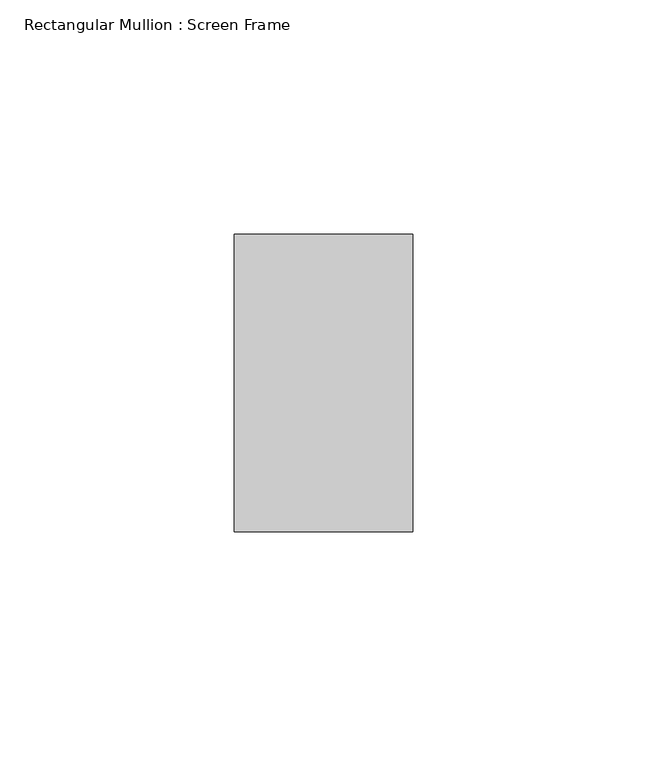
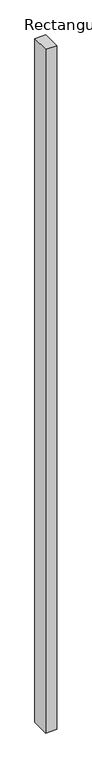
"""IFC4 building model written with IfcOpenShell, lengths in millimetres: member geometry, Rectangular Mullion : Screen Frame."""

import ifcopenshell
import ifcopenshell.guid

model = None  # the IFC model being written
_history = None  # IfcOwnerHistory: only IFC2X3 demands one
_inside = {}  # id of a spatial element -> (the spatial element, [elements in it])
_under = {}  # id of a project, library or spatial element -> (it, [spatial elements below it])
_declared = {}  # id of a project -> (the project, [libraries it declares])
_typed = {}  # id of a type object -> (the type object, [elements of that type])
_made_of = {}  # id of a material, layer set ... -> (it, [elements and type objects made of it])


def new_model(schema):
    """Start an empty IFC model of exactly this schema.

    Asked for "IFC4X3", IfcOpenShell would pick the latest addendum, in which some entities
    have other attributes; the version numbers below select the first issue.
    IFC2X3 requires an IfcOwnerHistory on every rooted entity: one is made here for all.
    """
    global model, _history
    if schema == "IFC4X3":
        model = ifcopenshell.file(schema_version=(4, 3, 0, 0))
    else:
        model = ifcopenshell.file(schema=schema)
    _inside.clear()
    _under.clear()
    _declared.clear()
    _typed.clear()
    _made_of.clear()
    _history = None
    if model.schema == "IFC2X3":
        org = make("IfcOrganization", Name="unknown")
        user = make(
            "IfcPersonAndOrganization",
            ThePerson=make("IfcPerson", FamilyName="unknown"),
            TheOrganization=org,
        )
        app = make(
            "IfcApplication",
            ApplicationDeveloper=org,
            Version="unknown",
            ApplicationFullName="unknown",
            ApplicationIdentifier="unknown",
        )
        _history = make(
            "IfcOwnerHistory",
            OwningUser=user,
            OwningApplication=app,
            ChangeAction="ADDED",
            CreationDate=0,
        )
    return model


def make(cls, **values):
    """One entity of the class cls with the attributes given. An attribute that is None is left unset."""
    return model.create_entity(
        cls, **{name: value for name, value in values.items() if value is not None}
    )


def rooted(cls, **values):
    """An entity with a GlobalId (a new one), such as an element, a storey or a relation."""
    return make(cls, GlobalId=ifcopenshell.guid.new(), OwnerHistory=_history, **values)


def si_unit(unit_type, name, prefix=None):
    """IfcSIUnit, for example si_unit("LENGTHUNIT", "METRE", prefix="MILLI")."""
    return make("IfcSIUnit", UnitType=unit_type, Prefix=prefix, Name=name)


def assignment(units):
    """IfcUnitAssignment: the units of a project."""
    return None if units is None else make("IfcUnitAssignment", Units=units)


def point(xyz):
    """IfcCartesianPoint."""
    return None if xyz is None else make("IfcCartesianPoint", Coordinates=xyz)


def direction(xyz):
    """IfcDirection."""
    return None if xyz is None else make("IfcDirection", DirectionRatios=xyz)


def frame(location, z_axis=None, x_axis=None):
    """IfcAxis2Placement3D, a coordinate frame: its origin and axes. An axis left out is left unset."""
    return make(
        "IfcAxis2Placement3D",
        Location=point(location),
        Axis=direction(z_axis),
        RefDirection=direction(x_axis),
    )


def origin():
    """The frame at (0, 0, 0) with its axes left unset."""
    return frame((0.0, 0.0, 0.0))


def place(relative_to, where):
    """IfcLocalPlacement: puts the frame where relative to a parent placement (None: the world)."""
    return make(
        "IfcLocalPlacement", PlacementRelTo=relative_to, RelativePlacement=where
    )


def context(
    kind, dimensions, precision=None, world=None, true_north=None, identifier=None
):
    """IfcGeometricRepresentationContext, for example the 3D "Model" context."""
    return make(
        "IfcGeometricRepresentationContext",
        ContextIdentifier=identifier,
        ContextType=kind,
        CoordinateSpaceDimension=dimensions,
        Precision=precision,
        WorldCoordinateSystem=world,
        TrueNorth=true_north,
    )


def project(units=None, contexts=None):
    """IfcProject with its units and contexts."""
    return rooted(
        "IfcProject",
        Name="project",
        RepresentationContexts=contexts,
        UnitsInContext=assignment(units),
    )


def spatial(cls, under=None, at=None, **own):
    """A site, building, storey or space (cls), placed at a placement, below another one or the project."""
    s = rooted(cls, ObjectPlacement=at, **own)
    if under is not None:
        _under.setdefault(under.id(), (under, []))[1].append(s)
    return s


def polyline(points):
    """IfcPolyline through the points."""
    return make("IfcPolyline", Points=[point(p) for p in points])


def outline(outer, holes=None, kind="AREA"):
    """IfcArbitraryClosedProfileDef: a profile drawn as a closed curve; with holes, ...WithVoids."""
    if holes is None:
        return make("IfcArbitraryClosedProfileDef", ProfileType=kind, OuterCurve=outer)
    return make(
        "IfcArbitraryProfileDefWithVoids",
        ProfileType=kind,
        OuterCurve=outer,
        InnerCurves=holes,
    )


def extrude(swept, where, along, depth):
    """IfcExtrudedAreaSolid: the profile swept, set in the frame where, extruded along a direction by depth."""
    return make(
        "IfcExtrudedAreaSolid",
        SweptArea=swept,
        Position=where,
        ExtrudedDirection=direction(along),
        Depth=depth,
    )


def shape(context_of_items, identifier, shape_type, items):
    """IfcShapeRepresentation: the items that make up one representation, for example the "Body"."""
    return make(
        "IfcShapeRepresentation",
        ContextOfItems=context_of_items,
        RepresentationIdentifier=identifier,
        RepresentationType=shape_type,
        Items=items,
    )


def source(mapping_origin, context_of_items, identifier, shape_type, items):
    """IfcRepresentationMap: a shape defined once, which mapped items show again and again."""
    return make(
        "IfcRepresentationMap",
        MappingOrigin=mapping_origin,
        MappedRepresentation=shape(context_of_items, identifier, shape_type, items),
    )


def transform(
    local_origin,
    x_axis=None,
    y_axis=None,
    z_axis=None,
    scale=None,
    scale2=None,
    scale3=None,
    uniform=True,
):
    """IfcCartesianTransformationOperator3D, or its non-uniform kind. x_axis, y_axis, z_axis: its Axis1, 2, 3."""
    if uniform:
        return make(
            "IfcCartesianTransformationOperator3D",
            Axis1=direction(x_axis),
            Axis2=direction(y_axis),
            LocalOrigin=point(local_origin),
            Scale=scale,
            Axis3=direction(z_axis),
        )
    return make(
        "IfcCartesianTransformationOperator3DnonUniform",
        Axis1=direction(x_axis),
        Axis2=direction(y_axis),
        LocalOrigin=point(local_origin),
        Scale=scale,
        Axis3=direction(z_axis),
        Scale2=scale2,
        Scale3=scale3,
    )


def mapped(mapping_source, mapping_target):
    """IfcMappedItem: shows the shape of a source again, moved by a transform."""
    return make(
        "IfcMappedItem", MappingSource=mapping_source, MappingTarget=mapping_target
    )


def made_of(thing, what):
    """Note that an element or type object is made of a material, layer set ...; save() writes the relation."""
    if what is not None:
        _made_of.setdefault(what.id(), (what, []))[1].append(thing)
    return thing


def element(
    cls,
    number,
    at=None,
    inside=None,
    cuts=None,
    type_object=None,
    material=None,
    context=None,
    identifier="Body",
    shape_type=None,
    held_by="IfcProductDefinitionShape",
    body=None,
    shapes=None,
    **own,
):
    """One element of the class cls, such as IfcWall. Its Tag is "e" and its number.

    at: its placement. inside: the storey or other place that contains it. cuts: it is an
    opening in that element (IfcRelVoidsElement). A single representation is given by context,
    identifier, shape_type and body (its items); several are given by shapes. held_by: the class
    of the entity that holds the representations. save() writes the other relations.
    """
    e = rooted(cls, Tag="e%d" % number, ObjectPlacement=at, **own)
    if body is not None:
        shapes = [shape(context, identifier, shape_type, body)]
    if shapes is not None:
        e.Representation = make(held_by, Representations=shapes)
    if inside is not None:
        _inside.setdefault(inside.id(), (inside, []))[1].append(e)
    if cuts is not None:
        rooted(
            "IfcRelVoidsElement", RelatingBuildingElement=cuts, RelatedOpeningElement=e
        )
    if type_object is not None:
        _typed.setdefault(type_object.id(), (type_object, []))[1].append(e)
    return made_of(e, material)


def aggregate(whole, parts):
    """IfcRelAggregates: a whole, such as a stair, and the parts it consists of."""
    return rooted("IfcRelAggregates", RelatingObject=whole, RelatedObjects=parts)


def save(model, path):
    """Write the relations noted so far, then the file.

    IfcRelAggregates (storeys below a building ...), IfcRelContainedInSpatialStructure (elements
    in a storey), IfcRelDefinesByType, IfcRelAssociatesMaterial and IfcRelDeclares: one each for
    every whole, place, type object, material and project.
    """
    for whole, parts in _under.values():
        aggregate(whole, parts)
    for where, things in _inside.values():
        rooted(
            "IfcRelContainedInSpatialStructure",
            RelatedElements=things,
            RelatingStructure=where,
        )
    for kind, things in _typed.values():
        rooted("IfcRelDefinesByType", RelatedObjects=things, RelatingType=kind)
    for what, things in _made_of.values():
        rooted("IfcRelAssociatesMaterial", RelatedObjects=things, RelatingMaterial=what)
    for by, libraries in _declared.values():
        rooted("IfcRelDeclares", RelatingContext=by, RelatedDefinitions=libraries)
    model.write(path)


def rectangular_mullion_screen_frame_2fc61970(model_context):
    return source(origin(), model_context, "Body", "SweptSolid", [
        extrude(outline(polyline([(0.0, 31.75), (0.0, -31.75), (-38.1, -31.75), (-38.1, 31.75), (0.0, 31.75)])), frame((0.0, 0.0, -2485.39), z_axis=(0.0, 0.0, 1.0), x_axis=(1.0, 0.0, 0.0)), (0.0, 0.0, 1.0), 2485.39),
    ])


if __name__ == "__main__":
    model = new_model("IFC4")
    model_context = context("Model", 3, world=origin())
    ifc_project = project(units=[si_unit("LENGTHUNIT", "METRE", prefix="MILLI")], contexts=[model_context])
    site = spatial("IfcSite", under=ifc_project)
    building = spatial("IfcBuilding", under=site)
    placement = place(None, origin())
    rectangular_mullion_screen_frame_shape = rectangular_mullion_screen_frame_2fc61970(model_context)
    element("IfcMember", 1, ObjectType="Rectangular Mullion : Screen Frame", at=placement, inside=building, context=model_context, shape_type="MappedRepresentation", body=[
        mapped(rectangular_mullion_screen_frame_shape, transform((0.0, 0.0, 0.0), x_axis=(1.0, 0.0, 0.0), y_axis=(0.0, 1.0, 0.0), z_axis=(0.0, 0.0, 1.0))),
    ])
    save(model, "model.ifc")
